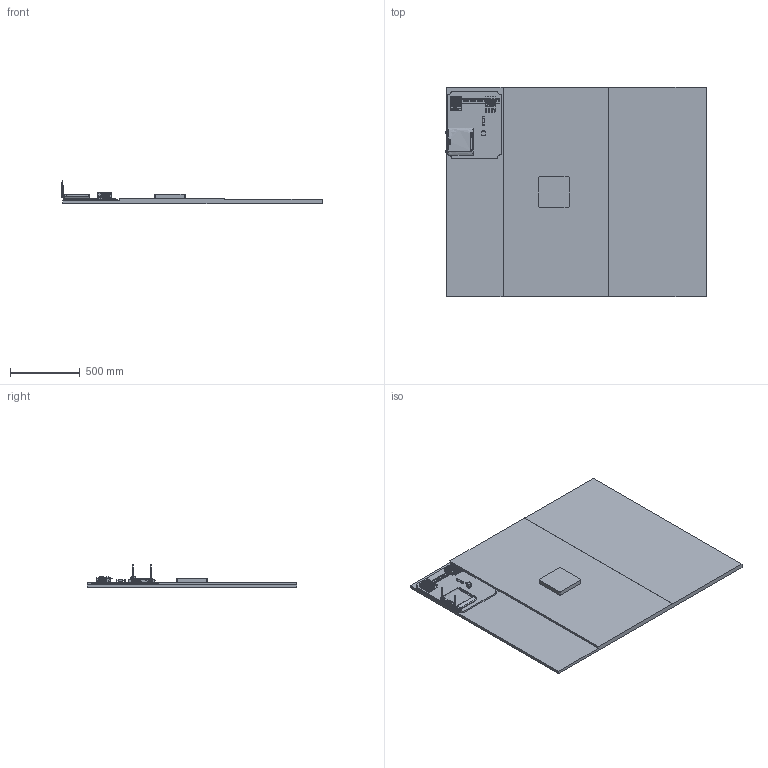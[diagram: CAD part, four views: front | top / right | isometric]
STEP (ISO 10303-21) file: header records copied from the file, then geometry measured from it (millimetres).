
FILE_DESCRIPTION(/* description */ (''),/* implementation_level */ '2;1');
FILE_NAME(/* name */ 'Work_Table.step',/* time_stamp */ '2023-08-16T19:24:59+08:00',/* author */ (''),/* organization */ (''),/* preprocessor_version */ 'ST-DEVELOPER v20',/* originating_system */ 'Autodesk Translation Framework v12.9.0.99',/* authorisation */ '');
FILE_SCHEMA (('AUTOMOTIVE_DESIGN { 1 0 10303 214 3 1 1 }'));
Products named in the file (20): Assembly; PSV-40-02-PT; VML-05-04; Mount Base; 0801733_NS_35_7.5_PERF_2000MM-select; 0801733_NS_35_7.5_PERF_2000MM-select_1; LRS-50-24; TableTop; Modem; BODY; BACK; LAN; WAN; POWER PORT; radial ball bearing_68_am_AFBMA 20.1 - 49-6 - 10,DE,NC,10_68; Part2; instrument ball bearing_68_am_AFBMA 12.1.4.1 - 0015-4 - 8,SI,NC,8_68; ANTENNA; Part3; SR-5100-C4-DC24-L
Assembly tree (29 placements, depth 3):
  Assembly
    PSV-40-02-PT
    VML-05-04
    Mount Base
    0801733_NS_35_7.5_PERF_2000MM-select
      0801733_NS_35_7.5_PERF_2000MM-select_1
    LRS-50-24
    SR-5100-C4-DC24-L  x4
    TableTop
    Modem
      BODY
      BACK
      LAN
      WAN
      POWER PORT
      radial ball bearing_68_am_AFBMA 20.1 - 49-6 - 10,DE,NC,10_68  x2
      Part2  x2
      instrument ball bearing_68_am_AFBMA 12.1.4.1 - 0015-4 - 8,SI,NC,8_68  x4
      ANTENNA  x2
      Part3  x2
Bounding box: 1862.63 x 1500 x 165.32 mm (x, y, z)
Volume: 89460700.9 mm3; surface area: 6506853.6 mm2
Topology: 28 solids, 30 shells, 3566 faces, 9425 edges, 6232 vertices
Faces by surface type: plane 2558, cylinder 591, bspline 268, torus 90, cone 38, sphere 21
Full cylindrical faces by diameter (mm): 1 x4, 1.096 x1, 1.4 x6, 1.455 x2, 1.5 x4, 1.586 x1, 2 x8, 2.2 x8, 2.25 x8, 2.459 x8, 2.5 x4, 2.6 x8, 3 x2, 3.2 x8, 3.25 x8, 3.5 x2, 4 x210, 5.338 x2, 6 x17, 7.5 x1, 8 x1, 8.7 x4, 11 x2, 12 x8, 12.3 x4, 13 x4, 14 x16, 14.3 x1, 15 x4, 21.402 x2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
Entity records: 110078 total; most frequent: CARTESIAN_POINT 35135, ORIENTED_EDGE 15784, DIRECTION 13886, EDGE_CURVE 7892, LINE 6170, VECTOR 6170, VERTEX_POINT 5243, AXIS2_PLACEMENT_3D 3858
